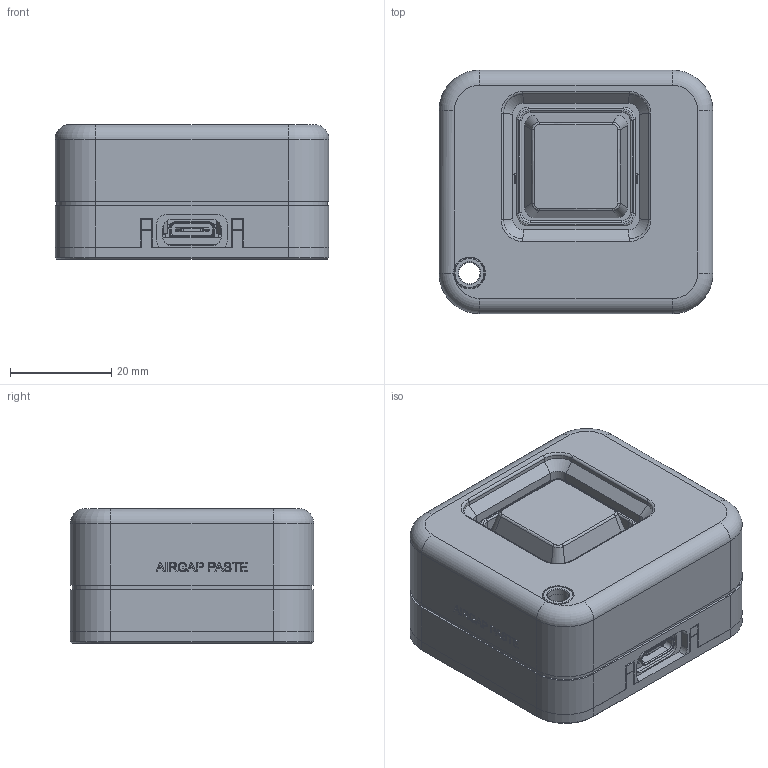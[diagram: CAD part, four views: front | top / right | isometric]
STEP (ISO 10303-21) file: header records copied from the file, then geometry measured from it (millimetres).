
FILE_DESCRIPTION(('Open CASCADE Model'),'2;1');
FILE_NAME('Open CASCADE Shape Model','2026-10-06T21:18:32',('Author'),( 'Open CASCADE'),'Open CASCADE STEP processor 7.9','Open CASCADE 7.9' ,'Unknown');
FILE_SCHEMA(('AUTOMOTIVE_DESIGN { 1 0 10303 214 1 1 1 1 }'));
Length unit declared in the file: millimetre
Products named in the file (13): AirGap_Paste_Pocket_Recess; 01_shell; 02_base; 03_keycap; 04_halo; 09_eye_bushing; 05_mx_plate; 07_xiao_wedge; 06_lightguide_left; 06_lightguide_right; XIAO_official_reference; Flat_FPC_antenna_envelope; MX_dimensional_envelope
Assembly tree (12 placements, depth 2):
  AirGap_Paste_Pocket_Recess
    01_shell
    02_base
    03_keycap
    04_halo
    09_eye_bushing
    05_mx_plate
    07_xiao_wedge
    06_lightguide_left
    06_lightguide_right
    XIAO_official_reference
    Flat_FPC_antenna_envelope
    MX_dimensional_envelope
Bounding box: 54 x 48 x 26.6 mm (x, y, z)
Volume: 30032.2 mm3; surface area: 34295.3 mm2
Topology: 49 solids, 54 shells, 1728 faces, 4465 edges, 2899 vertices
Faces by surface type: plane 1164, cylinder 308, bspline 105, extrusion 100, torus 30, cone 15, sphere 6
Full cylindrical faces by diameter (mm): 0.5 x3, 0.6 x2, 0.75 x14, 1.524 x8, 1.72 x1, 1.86 x1, 2 x2, 3.4 x6, 4.2 x3, 5.3 x1, 6 x1, 6.3 x1
Entity records: 113802 total; most frequent: CARTESIAN_POINT 26301, DIRECTION 15058, VECTOR 10282, LINE 10182, ORIENTED_EDGE 8914, PCURVE 8914, DEFINITIONAL_REPRESENTATION 8914, EDGE_CURVE 4457
